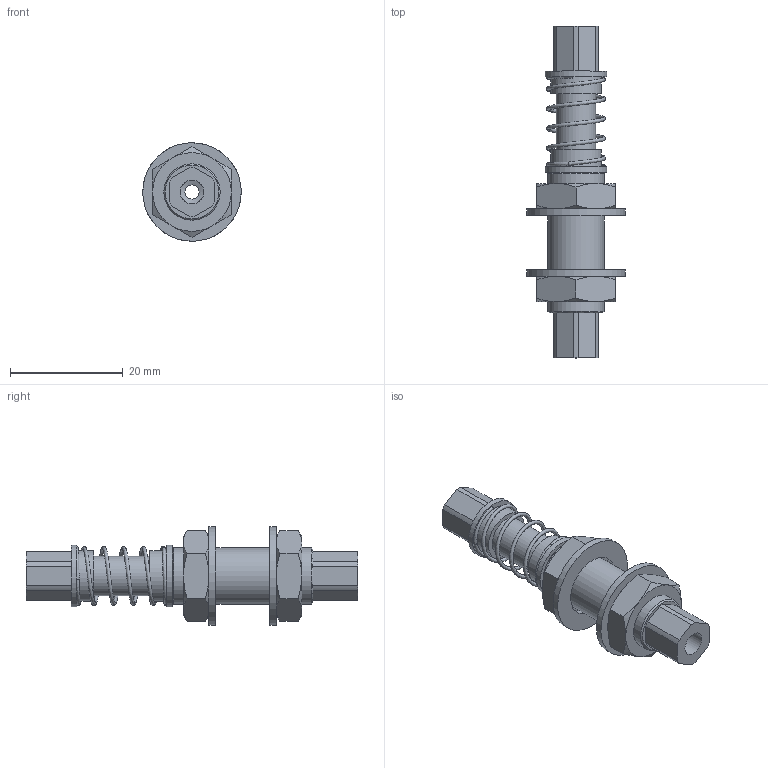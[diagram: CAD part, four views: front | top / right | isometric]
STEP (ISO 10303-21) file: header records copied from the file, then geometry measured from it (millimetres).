
FILE_DESCRIPTION(('STEP AP214'),'1');
FILE_NAME('CA.SARG.10050510.stp','2021-12-28T08:32:11',(' '),(' '),'Spatial InterOp 3D',' ',' ');
FILE_SCHEMA(('AUTOMOTIVE_DESIGN { 1 0 10303 214 1 1 1 1 }'));
Length unit declared in the file: millimetre
Products named in the file (8): CA.SARG.10050510; R.10.SCH; 05.01.005.06; M.10.5x28; SAR.10050510.4; SARG.10050510.3; SAE.10050510.1; SAR.10050510.2
Assembly tree (11 placements, depth 2):
  CA.SARG.10050510
    R.10.SCH  x2
    05.01.005.06  x2
    M.10.5x28
    SAR.10050510.4  x2
    SARG.10050510.3
    SAE.10050510.1  x2
    SAR.10050510.2
Bounding box: 17.48 x 59 x 17.48 mm (x, y, z)
Volume: 4398.6 mm3; surface area: 6820.9 mm2
Topology: 11 solids, 11 shells, 137 faces, 294 edges, 183 vertices
Faces by surface type: plane 52, cylinder 42, cone 38, bspline 5
Full cylindrical faces by diameter (mm): 2.5 x2, 4.2 x7, 5 x4, 5.2 x2, 7 x2, 7.15 x2, 9 x4, 10 x1, 11 x4, 17.5 x2
Entity records: 4737 total; most frequent: CARTESIAN_POINT 2062, DIRECTION 336, ORIENTED_EDGE 266, AXIS2_PLACEMENT_3D 152, EDGE_CURVE 133, EDGE_LOOP 128, FACE_OUTER_BOUND 104, VERTEX_POINT 99
